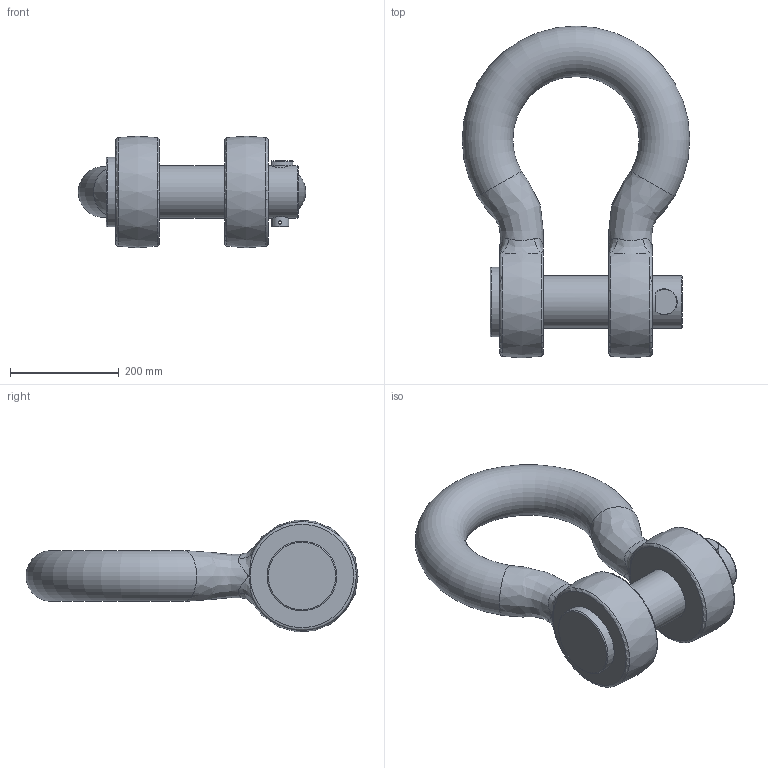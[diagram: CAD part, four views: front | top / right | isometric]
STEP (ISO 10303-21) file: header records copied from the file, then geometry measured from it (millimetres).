
FILE_DESCRIPTION(/* description */ (''),/* implementation_level */ '2;1');
FILE_NAME(/* name */ 'C:\Users\D\Documents\Inventor\HP\吊具\シャックル\BA_2\ba_80.stp',/* time_stamp */ '2024-11-20T10:44:53+09:00',/* author */ ('D'),/* organization */ (''),/* preprocessor_version */ 'ST-DEVELOPER v18',/* originating_system */ 'Autodesk Inventor 2020',/* authorisation */ '');
FILE_SCHEMA (('AUTOMOTIVE_DESIGN { 1 0 10303 214 3 1 1 }'));
Length unit declared in the file: millimetre
Products named in the file (4): ba_80; ba_6; ba-sa_pin1_34; ba-sa_pin2_34
Assembly tree (3 placements, depth 2):
  ba_80
    ba_6
    ba-sa_pin1_34
    ba-sa_pin2_34
Bounding box: 418 x 610 x 204.91 mm (x, y, z)
Volume: 12796277.5 mm3; surface area: 685060.1 mm2
Topology: 5 solids, 5 shells, 46 faces, 128 edges, 92 vertices
Faces by surface type: plane 15, bspline 14, torus 9, cylinder 8
Full cylindrical faces by diameter (mm): 6 x1, 32 x1, 33 x1, 96 x1, 98 x2, 128 x1
Entity records: 3772 total; most frequent: CARTESIAN_POINT 2486, ORIENTED_EDGE 256, DIRECTION 227, EDGE_CURVE 128, AXIS2_PLACEMENT_3D 107, VERTEX_POINT 92, CIRCLE 68, EDGE_LOOP 54
